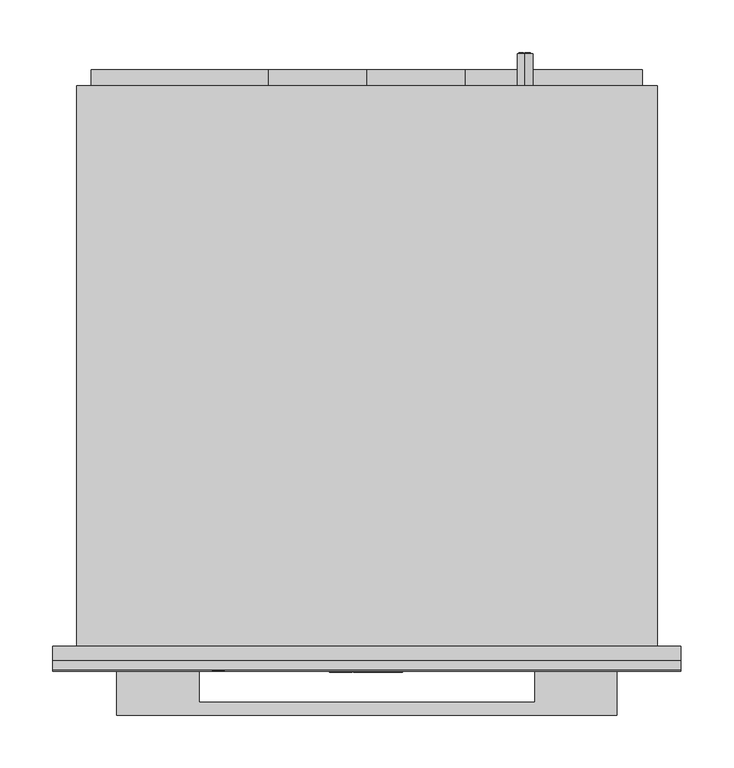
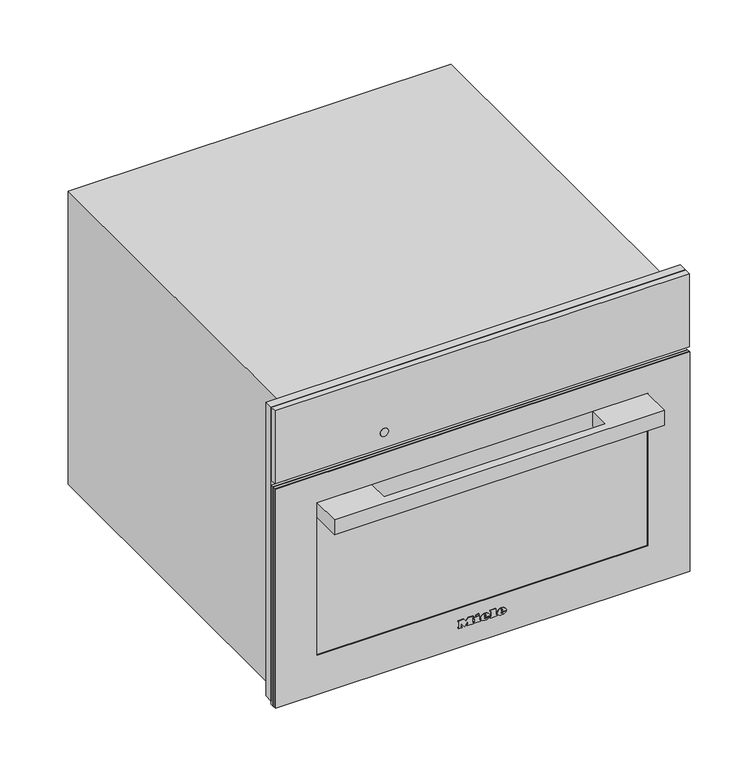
"""IFC4 building model written with IfcOpenShell, lengths in millimetres: proxy geometry, 11708570_BNE_DG2740_EDST-CLST : 23274040_BNE_11708570_DG2740_EDST-CLST."""

from ifc_helpers import new_model, si_unit, point, frame, frame_2d, origin, place, context, project, spatial, polyline, circle_curve, ellipse_curve, trimmed, segment, composite_curve, outline, extrude, faceted_brep, source, transform, mapped, element, save
from ifc_brep_helpers import plane_surface, cylinder_surface, revolved_surface, extruded_surface, advanced_brep


def specialty_equipment_362e2358(model_context):
    return source(origin(), model_context, "Body", "SolidModel", [
        extrude(outline(polyline([(455.0, 297.5), (455.0, -297.5), (9.0, -297.5), (9.0, -272.5), (344.0, -272.5), (344.0, 272.5), (9.0, 272.5), (9.0, 297.5), (455.0, 297.5)])), frame((0.0, -13.0, 0.0), z_axis=(0.0, 1.0, 0.0), x_axis=(0.0, 0.0, 1.0)), (0.0, 0.0, 1.0), 13.0),
        advanced_brep(
        [(150.0, 561.0, 410.5), (150.0, 561.0, 395.5), (144.4098301, 561.0, 398.0), (148.5, 561.0, 398.0), (148.5, 561.0, 408.0), (147.4955303, 561.0, 408.0), (147.4955303, 561.0, 399.0), (144.0315043, 561.0, 399.0), (144.0315043, 561.0, 398.4582978), (155.0, 561.0, 398.0), (155.0, 561.0, 408.0), (150.0, 561.0, 408.0), (150.0, 561.0, 407.0), (154.0, 561.0, 407.0), (154.0, 561.0, 403.5), (151.0, 561.0, 403.5), (151.0, 561.0, 402.5), (154.0, 561.0, 402.5), (154.0, 561.0, 399.0), (150.0, 561.0, 399.0), (150.0, 561.0, 398.0), (150.0, 531.0, 395.5), (150.0, 531.0, 410.5), (155.0, 562.0, 408.0), (155.0, 562.0, 398.0), (150.0, 562.0, 398.0), (150.0, 562.0, 399.0), (154.0, 562.0, 399.0), (154.0, 562.0, 402.5), (151.0, 562.0, 402.5), (151.0, 562.0, 403.5), (154.0, 562.0, 403.5), (154.0, 562.0, 407.0), (150.0, 562.0, 407.0), (150.0, 562.0, 408.0), (148.5, 562.0, 398.0), (144.0315043, 562.0, 398.0), (144.0315043, 562.0, 399.0), (147.4955303, 562.0, 399.0), (147.4955303, 562.0, 408.0), (148.5, 562.0, 408.0), (144.0315043, 561.0, 398.0)],
        [
            (0, 1, circle_curve(frame((150.0, 561.0, 403.0), z_axis=(0.0, 1.0, 0.0), x_axis=(0.0, 0.0, 1.0)), 7.5)),
            (1, 2, circle_curve(frame((150.0, 561.0, 403.0), z_axis=(0.0, 1.0, 0.0), x_axis=(0.0, 0.0, 1.0)), 7.5)),
            (2, 3),
            (3, 4),
            (4, 5),
            (5, 6),
            (6, 7),
            (7, 8),
            (8, 0, circle_curve(frame((150.0, 561.0, 403.0), z_axis=(0.0, 1.0, 0.0), x_axis=(0.0, 0.0, 1.0)), 7.5)),
            (9, 10),
            (10, 11),
            (11, 12),
            (12, 13),
            (13, 14),
            (14, 15),
            (15, 16),
            (16, 17),
            (17, 18),
            (18, 19),
            (19, 20),
            (20, 9),
            (21, 22, circle_curve(frame((150.0, 531.0, 403.0), z_axis=(0.0, -1.0, 0.0), x_axis=(0.0, 0.0, 1.0)), 7.5)),
            (22, 21, circle_curve(frame((150.0, 531.0, 403.0), z_axis=(0.0, -1.0, 0.0), x_axis=(0.0, 0.0, 1.0)), 7.5)),
            (0, 22),
            (21, 1),
            (8, 2, circle_curve(frame((150.0, 561.0, 403.0), z_axis=(0.0, -1.0, 0.0), x_axis=(0.0, 0.0, 1.0)), 7.5)),
            (23, 24),
            (24, 25),
            (25, 26),
            (26, 27),
            (27, 28),
            (28, 29),
            (29, 30),
            (30, 31),
            (31, 32),
            (32, 33),
            (33, 34),
            (34, 23),
            (35, 36),
            (36, 37),
            (37, 38),
            (38, 39),
            (39, 40),
            (40, 35),
            (8, 41),
            (41, 2),
            (23, 10),
            (9, 24),
            (20, 25),
            (19, 26),
            (18, 27),
            (17, 28),
            (16, 29),
            (15, 30),
            (14, 31),
            (13, 32),
            (12, 33),
            (11, 34),
            (35, 3),
            (41, 36),
            (7, 37),
            (6, 38),
            (5, 39),
            (4, 40),
        ],
        [
            plane_surface(frame((150.0, 561.0, 410.5), z_axis=(0.0, 1.0, 0.0), x_axis=(1.0, 0.0, 0.0))),
            plane_surface(frame((150.0, 531.0, 410.5), z_axis=(0.0, -1.0, 0.0), x_axis=(-1.0, 0.0, 0.0))),
            cylinder_surface(frame((150.0, 561.0, 403.0), z_axis=(0.0, -1.0, 0.0), x_axis=(0.0, 0.0, 1.0)), 7.5),
            plane_surface(frame((155.0, 562.0, 408.0), z_axis=(0.0, 1.0, 0.0), x_axis=(0.0, 0.0, -1.0))),
            plane_surface(frame((155.0, 561.0, 408.0), z_axis=(0.0, -1.0, 0.0), x_axis=(0.0, 0.0, 1.0))),
            plane_surface(frame((155.0, 562.0, 408.0), z_axis=(1.0, 0.0, 0.0), x_axis=(0.0, -1.0, 0.0))),
            plane_surface(frame((155.0, 562.0, 398.0), z_axis=(0.0, 0.0, -1.0), x_axis=(0.0, -1.0, 0.0))),
            plane_surface(frame((150.0, 562.0, 398.0), z_axis=(-1.0, 0.0, 0.0), x_axis=(0.0, -1.0, 0.0))),
            plane_surface(frame((150.0, 562.0, 399.0), z_axis=(0.0, 0.0, 1.0), x_axis=(0.0, -1.0, 0.0))),
            plane_surface(frame((154.0, 562.0, 399.0), z_axis=(-1.0, 0.0, 0.0), x_axis=(0.0, -1.0, 0.0))),
            plane_surface(frame((154.0, 562.0, 402.5), z_axis=(0.0, 0.0, -1.0), x_axis=(0.0, -1.0, 0.0))),
            plane_surface(frame((151.0, 562.0, 402.5), z_axis=(-1.0, 0.0, 0.0), x_axis=(0.0, -1.0, 0.0))),
            plane_surface(frame((151.0, 562.0, 403.5), z_axis=(0.0, 0.0, 1.0), x_axis=(0.0, -1.0, 0.0))),
            plane_surface(frame((154.0, 562.0, 403.5), z_axis=(-1.0, 0.0, 0.0), x_axis=(0.0, -1.0, 0.0))),
            plane_surface(frame((154.0, 562.0, 407.0), z_axis=(0.0, 0.0, -1.0), x_axis=(0.0, -1.0, 0.0))),
            plane_surface(frame((150.0, 562.0, 407.0), z_axis=(-1.0, 0.0, 0.0), x_axis=(0.0, -1.0, 0.0))),
            plane_surface(frame((150.0, 562.0, 408.0), z_axis=(0.0, 0.0, 1.0), x_axis=(0.0, -1.0, 0.0))),
            plane_surface(frame((148.5, 562.0, 398.0), z_axis=(0.0, 0.0, -1.0), x_axis=(0.0, -1.0, 0.0))),
            plane_surface(frame((144.0315043, 562.0, 398.0), z_axis=(-1.0, 0.0, 0.0), x_axis=(0.0, -1.0, 0.0))),
            plane_surface(frame((144.0315043, 562.0, 399.0), z_axis=(0.0, 0.0, 1.0), x_axis=(0.0, -1.0, 0.0))),
            plane_surface(frame((147.4955303, 562.0, 399.0), z_axis=(-1.0, 0.0, 0.0), x_axis=(0.0, -1.0, 0.0))),
            plane_surface(frame((147.4955303, 562.0, 408.0), z_axis=(0.0, 0.0, 1.0), x_axis=(0.0, -1.0, 0.0))),
            plane_surface(frame((148.5, 562.0, 408.0), z_axis=(1.0, 0.0, 0.0), x_axis=(0.0, -1.0, 0.0))),
        ],
        [
            (0, [[1, 2, 3, 4, 5, 6, 7, 8, 9], [10, 11, 12, 13, 14, 15, 16, 17, 18, 19, 20, 21]]),
            (1, [[22, 23]]),
            (2, [[-1, 24, -22, 25]]),
            (2, [[-23, -24, -9, 26, -2, -25]]),
            (3, [[27, 28, 29, 30, 31, 32, 33, 34, 35, 36, 37, 38]]),
            (3, [[39, 40, 41, 42, 43, 44]]),
            (4, [[45, 46, -26]]),
            (5, [[-27, 47, -10, 48]]),
            (6, [[-28, -48, -21, 49]]),
            (7, [[-29, -49, -20, 50]]),
            (8, [[-30, -50, -19, 51]]),
            (9, [[-31, -51, -18, 52]]),
            (10, [[-32, -52, -17, 53]]),
            (11, [[-33, -53, -16, 54]]),
            (12, [[-34, -54, -15, 55]]),
            (13, [[-35, -55, -14, 56]]),
            (14, [[-36, -56, -13, 57]]),
            (15, [[-37, -57, -12, 58]]),
            (16, [[-38, -58, -11, -47]]),
            (17, [[-39, 59, -3, -46, 60]]),
            (18, [[-40, -60, -45, -8, 61]]),
            (19, [[-41, -61, -7, 62]]),
            (20, [[-42, -62, -6, 63]]),
            (21, [[-43, -63, -5, 64]]),
            (22, [[-44, -64, -4, -59]]),
        ],
    ),
        extrude(outline(polyline([(299.0, -93.0), (258.0, -93.0), (258.0, -261.0), (111.0, -261.0), (111.0, -93.0), (70.0, -93.0), (70.0, 0.0), (70.0, 93.0), (111.0, 93.0), (111.0, 261.0), (258.0, 261.0), (258.0, 93.0), (299.0, 93.0), (299.0, 0.0), (299.0, -93.0)])), frame((0.0, 531.0, 0.0), z_axis=(0.0, 1.0, 0.0), x_axis=(0.0, 0.0, 1.0)), (0.0, 0.0, 1.0), 15.0),
        faceted_brep([(275.0, 531.0, 445.0), (275.0, 531.0, 0.0), (-275.0, 531.0, 0.0), (-275.0, 531.0, 445.0), (275.0, 0.0, 445.0), (-275.0, 0.0, 445.0), (-275.0, 0.0, 0.0), (275.0, 0.0, 0.0), (-272.5, 0.0, 344.0), (272.5, 0.0, 344.0), (272.5, 0.0, 8.0), (-272.5, 0.0, 8.0), (272.5, 34.0, 344.0), (-272.5, 34.0, 344.0), (-272.5, 34.0, 8.0), (272.5, 34.0, 8.0), (161.0, 34.0, 286.0), (161.0, 34.0, 58.0), (-220.0, 34.0, 58.0), (-220.0, 34.0, 286.0), (161.0, 444.0, 286.0), (-220.0, 444.0, 286.0), (-220.0, 444.0, 58.0), (161.0, 444.0, 58.0)], [[[0, 1, 2, 3]], [[4, 5, 6, 7], [8, 9, 10, 11]], [[0, 3, 5, 4]], [[3, 2, 6, 5]], [[2, 1, 7, 6]], [[1, 0, 4, 7]], [[12, 13, 14, 15], [16, 17, 18, 19]], [[13, 12, 9, 8]], [[14, 13, 8, 11]], [[15, 14, 11, 10]], [[12, 15, 10, 9]], [[20, 21, 22, 23]], [[20, 23, 17, 16]], [[23, 22, 18, 17]], [[22, 21, 19, 18]], [[21, 20, 16, 19]]]),
        advanced_brep(
        [(26.2998, -24.3, 36.7018), (26.2998, -24.3, 37.8532), (33.9264, -24.3, 37.8532), (20.6568, -24.3, 37.8532), (23.7918, -24.3, 34.0), (33.7326, -24.3, 36.7018), (30.2898, -24.3, 36.7018), (27.5766, -24.3, 35.425), (26.2998, -24.3, 39.3124), (26.2998, -24.3, 40.555), (28.2492, -24.3, 40.555), (28.2492, -24.3, 39.3124), (26.2998, -23.3, 36.7018), (27.5766, -23.3, 35.425), (30.2898, -23.3, 36.7018), (33.7326, -23.3, 36.7018), (23.7918, -23.3, 34.0), (20.6568, -23.3, 37.8532), (33.9264, -23.3, 37.8532), (26.2998, -23.3, 37.8532), (26.2998, -23.3, 39.3124), (28.2492, -23.3, 39.3124), (28.2492, -23.3, 40.555), (26.2998, -23.3, 40.555)],
        [
            (0, 1),
            (1, 2),
            (2, 3, ellipse_curve(frame((27.2916, -24.3, 37.8532), z_axis=(0.0, -1.0, 0.0), x_axis=(-1.0, 0.0, 0.0)), 6.6348, 5.4834)),
            (3, 4, circle_curve(frame((25.0686622, -24.3, 38.2408), z_axis=(0.0, -1.0, 0.0), x_axis=(0.0, 0.0, -1.0)), 4.4288556)),
            (4, 5, circle_curve(frame((27.1587808, -24.3, 41.2504), z_axis=(0.0, -1.0, 0.0), x_axis=(0.0, 0.0, -1.0)), 7.9940516)),
            (5, 6),
            (6, 7, circle_curve(frame((28.1338588, -24.3, 37.762), z_axis=(0.0, 1.0, 0.0), x_axis=(0.0, 0.0, -1.0)), 2.4025208)),
            (7, 0, circle_curve(frame((27.5766, -24.3, 36.7018), z_axis=(0.0, 1.0, 0.0), x_axis=(0.0, 0.0, -1.0)), 1.2768)),
            (8, 9),
            (9, 10, circle_curve(frame((27.2745, -24.3, 40.555), z_axis=(0.0, 1.0, 0.0), x_axis=(0.0, 0.0, -1.0)), 0.9747)),
            (10, 11),
            (11, 8),
            (12, 13, circle_curve(frame((27.5766, -23.3, 36.7018), z_axis=(0.0, -1.0, 0.0), x_axis=(0.0, 0.0, -1.0)), 1.2768)),
            (13, 14, circle_curve(frame((28.1338588, -23.3, 37.762), z_axis=(0.0, -1.0, 0.0), x_axis=(0.0, 0.0, -1.0)), 2.4025208)),
            (14, 15),
            (15, 16, circle_curve(frame((27.1587808, -23.3, 41.2504), z_axis=(0.0, 1.0, 0.0), x_axis=(0.0, 0.0, -1.0)), 7.9940516)),
            (16, 17, circle_curve(frame((25.0686622, -23.3, 38.2408), z_axis=(0.0, 1.0, 0.0), x_axis=(0.0, 0.0, -1.0)), 4.4288556)),
            (17, 18, ellipse_curve(frame((27.2916, -23.3, 37.8532), z_axis=(0.0, 1.0, 0.0), x_axis=(-1.0, 0.0, 0.0)), 6.6348, 5.4834)),
            (18, 19),
            (19, 12),
            (20, 21),
            (21, 22),
            (22, 23, circle_curve(frame((27.2745, -23.3, 40.555), z_axis=(0.0, -1.0, 0.0), x_axis=(0.0, 0.0, -1.0)), 0.9747)),
            (23, 20),
            (0, 12),
            (19, 1),
            (18, 2),
            (5, 15),
            (14, 6),
            (17, 3),
            (13, 7),
            (16, 4),
            (8, 20),
            (23, 9),
            (22, 10),
            (21, 11),
        ],
        [
            plane_surface(frame((26.2998, -24.3, 37.8532), z_axis=(0.0, -1.0, 0.0), x_axis=(0.0, 0.0, 1.0))),
            plane_surface(frame((26.2998, -23.3, 37.8532), z_axis=(0.0, 1.0, 0.0), x_axis=(0.0, 0.0, -1.0))),
            plane_surface(frame((26.2998, -24.3, 36.7018), z_axis=(1.0, 0.0, 0.0), x_axis=(0.0, 1.0, 0.0))),
            plane_surface(frame((26.2998, -24.3, 37.8532), z_axis=(0.0, 0.0, -1.0), x_axis=(0.0, 1.0, 0.0))),
            plane_surface(frame((33.7326, -24.3, 36.7018), z_axis=(0.0, 0.0, 1.0), x_axis=(0.0, 1.0, 0.0))),
            extruded_surface(trimmed(ellipse_curve(frame((27.2916, -22.3, 37.8532), z_axis=(0.0, -1.0, 0.0), x_axis=(-1.0, 0.0, 0.0)), 6.6348, 5.4834), [point((33.9264, -22.3, 37.8532))], [point((20.6568, -22.3, 37.8532))], True, "CARTESIAN"), (0.0, -1.0, 0.0), 1.0),
            revolved_surface(polyline([(28.1338588, -23.3, 35.3594792), (28.1338588, -24.3, 35.3594792)]), (28.1338588, -23.3, 37.762), (0.0, 1.0, 0.0)),
            revolved_surface(polyline([(27.5766, -23.3, 35.425), (27.5766, -24.3, 35.425)]), (27.5766, -23.3, 36.7018), (0.0, 1.0, 0.0)),
            cylinder_surface(frame((25.0686622, -23.3, 38.2408), z_axis=(0.0, -1.0, 0.0), x_axis=(0.0, 0.0, -1.0)), 4.4288556),
            cylinder_surface(frame((27.1587808, -23.3, 41.2504), z_axis=(0.0, -1.0, 0.0), x_axis=(0.0, 0.0, -1.0)), 7.9940516),
            plane_surface(frame((26.2998, -24.3, 39.3124), z_axis=(1.0, 0.0, 0.0), x_axis=(0.0, 1.0, 0.0))),
            revolved_surface(polyline([(27.2745, -23.3, 39.5803), (27.2745, -24.3, 39.5803)]), (27.2745, -23.3, 40.555), (0.0, 1.0, 0.0)),
            plane_surface(frame((28.2492, -24.3, 40.555), z_axis=(-1.0, 0.0, 0.0), x_axis=(0.0, 1.0, 0.0))),
            plane_surface(frame((28.2492, -24.3, 39.3124), z_axis=(0.0, 0.0, 1.0), x_axis=(0.0, 1.0, 0.0))),
        ],
        [
            (0, [[1, 2, 3, 4, 5, 6, 7, 8], [9, 10, 11, 12]]),
            (1, [[13, 14, 15, 16, 17, 18, 19, 20], [21, 22, 23, 24]]),
            (2, [[-1, 25, -20, 26]]),
            (3, [[-2, -26, -19, 27]]),
            (4, [[-6, 28, -15, 29]]),
            (5, [[-3, -27, -18, 30]]),
            (6, [[-7, -29, -14, 31]]),
            (7, [[-8, -31, -13, -25]]),
            (8, [[-4, -30, -17, 32]]),
            (9, [[-5, -32, -16, -28]]),
            (10, [[-9, 33, -24, 34]]),
            (11, [[-10, -34, -23, 35]]),
            (12, [[-11, -35, -22, 36]]),
            (13, [[-12, -36, -21, -33]]),
        ],
    ),
        advanced_brep(
        [(2.508, -24.3, 36.7018), (2.508, -24.3, 37.8532), (10.1346, -24.3, 37.8532), (-3.135, -24.3, 37.8532), (0.0, -24.3, 34.0), (9.9408, -24.3, 36.7018), (6.498, -24.3, 36.7018), (3.7848, -24.3, 35.425), (2.508, -24.3, 39.3124), (2.508, -24.3, 40.555), (4.4574, -24.3, 40.555), (4.4574, -24.3, 39.3124), (2.508, -23.3, 36.7018), (3.7848, -23.3, 35.425), (6.498, -23.3, 36.7018), (9.9408, -23.3, 36.7018), (0.0, -23.3, 34.0), (-3.135, -23.3, 37.8532), (10.1346, -23.3, 37.8532), (2.508, -23.3, 37.8532), (2.508, -23.3, 39.3124), (4.4574, -23.3, 39.3124), (4.4574, -23.3, 40.555), (2.508, -23.3, 40.555)],
        [
            (0, 1),
            (1, 2),
            (2, 3, ellipse_curve(frame((3.4998, -24.3, 37.8532), z_axis=(0.0, -1.0, 0.0), x_axis=(-1.0, 0.0, 0.0)), 6.6348, 5.4834)),
            (3, 4, circle_curve(frame((1.2768622, -24.3, 38.2408), z_axis=(0.0, -1.0, 0.0), x_axis=(0.0, 0.0, -1.0)), 4.4288556)),
            (4, 5, circle_curve(frame((3.3669808, -24.3, 41.2504), z_axis=(0.0, -1.0, 0.0), x_axis=(0.0, 0.0, -1.0)), 7.9940516)),
            (5, 6),
            (6, 7, circle_curve(frame((4.3420588, -24.3, 37.762), z_axis=(0.0, 1.0, 0.0), x_axis=(0.0, 0.0, -1.0)), 2.4025208)),
            (7, 0, circle_curve(frame((3.7848, -24.3, 36.7018), z_axis=(0.0, 1.0, 0.0), x_axis=(0.0, 0.0, -1.0)), 1.2768)),
            (8, 9),
            (9, 10, circle_curve(frame((3.4827, -24.3, 40.555), z_axis=(0.0, 1.0, 0.0), x_axis=(0.0, 0.0, -1.0)), 0.9747)),
            (10, 11),
            (11, 8),
            (12, 13, circle_curve(frame((3.7848, -23.3, 36.7018), z_axis=(0.0, -1.0, 0.0), x_axis=(0.0, 0.0, -1.0)), 1.2768)),
            (13, 14, circle_curve(frame((4.3420588, -23.3, 37.762), z_axis=(0.0, -1.0, 0.0), x_axis=(0.0, 0.0, -1.0)), 2.4025208)),
            (14, 15),
            (15, 16, circle_curve(frame((3.3669808, -23.3, 41.2504), z_axis=(0.0, 1.0, 0.0), x_axis=(0.0, 0.0, -1.0)), 7.9940516)),
            (16, 17, circle_curve(frame((1.2768622, -23.3, 38.2408), z_axis=(0.0, 1.0, 0.0), x_axis=(0.0, 0.0, -1.0)), 4.4288556)),
            (17, 18, ellipse_curve(frame((3.4998, -23.3, 37.8532), z_axis=(0.0, 1.0, 0.0), x_axis=(-1.0, 0.0, 0.0)), 6.6348, 5.4834)),
            (18, 19),
            (19, 12),
            (20, 21),
            (21, 22),
            (22, 23, circle_curve(frame((3.4827, -23.3, 40.555), z_axis=(0.0, -1.0, 0.0), x_axis=(0.0, 0.0, -1.0)), 0.9747)),
            (23, 20),
            (0, 12),
            (19, 1),
            (18, 2),
            (5, 15),
            (14, 6),
            (17, 3),
            (13, 7),
            (16, 4),
            (8, 20),
            (23, 9),
            (22, 10),
            (21, 11),
        ],
        [
            plane_surface(frame((2.508, -24.3, 37.8532), z_axis=(0.0, -1.0, 0.0), x_axis=(0.0, 0.0, 1.0))),
            plane_surface(frame((2.508, -23.3, 37.8532), z_axis=(0.0, 1.0, 0.0), x_axis=(0.0, 0.0, -1.0))),
            plane_surface(frame((2.508, -24.3, 36.7018), z_axis=(1.0, 0.0, 0.0), x_axis=(0.0, 1.0, 0.0))),
            plane_surface(frame((2.508, -24.3, 37.8532), z_axis=(0.0, 0.0, -1.0), x_axis=(0.0, 1.0, 0.0))),
            plane_surface(frame((9.9408, -24.3, 36.7018), z_axis=(0.0, 0.0, 1.0), x_axis=(0.0, 1.0, 0.0))),
            extruded_surface(trimmed(ellipse_curve(frame((3.4998, -22.3, 37.8532), z_axis=(0.0, -1.0, 0.0), x_axis=(-1.0, 0.0, 0.0)), 6.6348, 5.4834), [point((10.1346, -22.3, 37.8532))], [point((-3.135, -22.3, 37.8532))], True, "CARTESIAN"), (0.0, -1.0, 0.0), 1.0),
            revolved_surface(polyline([(4.3420588, -23.3, 35.3594792), (4.3420588, -24.3, 35.3594792)]), (4.3420588, -23.3, 37.762), (0.0, 1.0, 0.0)),
            revolved_surface(polyline([(3.7848, -23.3, 35.425), (3.7848, -24.3, 35.425)]), (3.7848, -23.3, 36.7018), (0.0, 1.0, 0.0)),
            cylinder_surface(frame((1.2768622, -23.3, 38.2408), z_axis=(0.0, -1.0, 0.0), x_axis=(0.0, 0.0, -1.0)), 4.4288556),
            cylinder_surface(frame((3.3669808, -23.3, 41.2504), z_axis=(0.0, -1.0, 0.0), x_axis=(0.0, 0.0, -1.0)), 7.9940516),
            plane_surface(frame((2.508, -24.3, 39.3124), z_axis=(1.0, 0.0, 0.0), x_axis=(0.0, 1.0, 0.0))),
            revolved_surface(polyline([(3.4827, -23.3, 39.5803), (3.4827, -24.3, 39.5803)]), (3.4827, -23.3, 40.555), (0.0, 1.0, 0.0)),
            plane_surface(frame((4.4574, -24.3, 40.555), z_axis=(-1.0, 0.0, 0.0), x_axis=(0.0, 1.0, 0.0))),
            plane_surface(frame((4.4574, -24.3, 39.3124), z_axis=(0.0, 0.0, 1.0), x_axis=(0.0, 1.0, 0.0))),
        ],
        [
            (0, [[1, 2, 3, 4, 5, 6, 7, 8], [9, 10, 11, 12]]),
            (1, [[13, 14, 15, 16, 17, 18, 19, 20], [21, 22, 23, 24]]),
            (2, [[-1, 25, -20, 26]]),
            (3, [[-2, -26, -19, 27]]),
            (4, [[-6, 28, -15, 29]]),
            (5, [[-3, -27, -18, 30]]),
            (6, [[-7, -29, -14, 31]]),
            (7, [[-8, -31, -13, -25]]),
            (8, [[-4, -30, -17, 32]]),
            (9, [[-5, -32, -16, -28]]),
            (10, [[-9, 33, -24, 34]]),
            (11, [[-10, -34, -23, 35]]),
            (12, [[-11, -35, -22, 36]]),
            (13, [[-12, -36, -21, -33]]),
        ],
    ),
        extrude(outline(polyline([(44.7274, -9.9522), (42.8806, -9.0858), (44.6818, -5.2212), (46.5286, -6.0762), (44.7274, -9.9522)])), frame((0.0, -24.3, 0.0), z_axis=(0.0, 1.0, 0.0), x_axis=(0.0, 0.0, 1.0)), (0.0, 0.0, 1.0), 1.0),
        extrude(outline(polyline([(42.6298, -12.768), (40.5892, -12.768), (40.5892, -11.4114), (35.9152, -11.4114), (35.9152, -12.768), (34.0, -12.768), (34.0, -3.7734), (35.9152, -3.7734), (35.9152, -5.0958), (42.6298, -5.0958), (42.6298, -12.768)])), frame((0.0, -24.3, 0.0), z_axis=(0.0, 1.0, 0.0), x_axis=(0.0, 0.0, 1.0)), (0.0, 0.0, 1.0), 1.0),
        extrude(outline(polyline([(43.5418, 10.773), (43.5418, 12.141), (35.9152, 12.141), (35.9152, 10.773), (34.0, 10.773), (34.0, 20.0184), (35.9152, 20.0184), (35.9152, 18.6162), (45.4, 18.6162), (45.4, 10.773), (43.5418, 10.773)])), frame((0.0, -24.3, 0.0), z_axis=(0.0, 1.0, 0.0), x_axis=(0.0, 0.0, 1.0)), (0.0, 0.0, 1.0), 1.0),
        extrude(outline(polyline([(43.5418, -35.4882), (43.5418, -34.1088), (35.9152, -34.1088), (35.9152, -35.4882), (34.0, -35.4882), (34.0, -30.4722), (35.9152, -30.4722), (35.9152, -31.8402), (40.7429247, -31.8402), (34.0, -26.7444), (40.9402223, -21.6258), (35.9152, -21.6258), (35.9152, -23.028), (34.0, -23.028), (34.0, -13.9308), (35.9152, -13.9308), (35.9152, -15.3786), (43.5418, -15.3786), (43.5418, -13.9308), (45.4, -13.9308), (45.4, -20.8734), (41.125, -24.2022), (45.4, -27.5424), (45.4, -35.4882), (43.5418, -35.4882)])), frame((0.0, -24.3, 0.0), z_axis=(0.0, 1.0, 0.0), x_axis=(0.0, 0.0, 1.0)), (0.0, 0.0, 1.0), 1.0),
        extrude(outline(polyline([(297.5, -22.0), (-297.5, -22.0), (-297.5, -13.0), (297.5, -13.0), (297.5, -22.0)])), frame((0.0, 0.0, 344.0), z_axis=(0.0, 0.0, 1.0), x_axis=(1.0, 0.0, 0.0)), (0.0, 0.0, 1.0), 111.0),
        extrude(outline(composite_curve([segment(trimmed(circle_curve(frame_2d((367.7, -140.5745637)), 6.0), [point((367.7, -146.5745637))], [point((367.7, -134.5745637))], False, "CARTESIAN"), True, "CONTINUOUS"), segment(trimmed(circle_curve(frame_2d((367.7, -140.5745637)), 6.0), [point((367.7, -134.5745637))], [point((367.7, -146.5745637))], False, "CARTESIAN"), True, "CONTINUOUS")], self_intersect=False)), frame((0.0, -22.5, 0.0), z_axis=(0.0, 1.0, 0.0), x_axis=(0.0, 0.0, 1.0)), (0.0, 0.0, 1.0), 1.0),
        extrude(outline(polyline([(297.5, -18.0), (-297.5, -18.0), (-297.5, -13.0), (297.5, -13.0), (297.5, -18.0)])), frame((0.0, 0.0, 4.0), z_axis=(0.0, 0.0, 1.0), x_axis=(1.0, 0.0, 0.0)), (0.0, 0.0, 1.0), 333.0),
        extrude(outline(polyline([(337.0, 297.5), (337.0, -297.5), (4.0, -297.5), (4.0, 297.5), (337.0, 297.5)]), holes=[polyline([(295.5, -237.5), (295.5, 237.5), (64.0, 237.5), (64.0, -237.5), (295.5, -237.5)])]), frame((0.0, -23.3, 0.0), z_axis=(0.0, 1.0, 0.0), x_axis=(0.0, 0.0, 1.0)), (0.0, 0.0, 1.0), 1.3),
        extrude(outline(polyline([(-159.0, -22.0), (-159.0, -53.0), (159.0, -53.0), (159.0, -22.0), (237.0, -22.0), (237.0, -65.0), (-237.0, -65.0), (-237.0, -22.0), (-159.0, -22.0)])), frame((0.0, 0.0, 272.0), z_axis=(0.0, 0.0, 1.0), x_axis=(1.0, 0.0, 0.0)), (0.0, 0.0, 1.0), 22.5),
        extrude(outline(polyline([(297.5, -22.0), (-297.5, -22.0), (-297.5, -18.0), (297.5, -18.0), (297.5, -22.0)])), frame((0.0, 0.0, 4.0), z_axis=(0.0, 0.0, 1.0), x_axis=(1.0, 0.0, 0.0)), (0.0, 0.0, 1.0), 333.0),
    ])


if __name__ == "__main__":
    model = new_model("IFC4")
    model_context = context("Model", 3, world=origin())
    ifc_project = project(units=[si_unit("LENGTHUNIT", "METRE", prefix="MILLI")], contexts=[model_context])
    site = spatial("IfcSite", under=ifc_project)
    building = spatial("IfcBuilding", under=site)
    placement = place(None, origin())
    specialty_equipment_shape = specialty_equipment_362e2358(model_context)
    element("IfcBuildingElementProxy", 1, Name="11708570_BNE_DG2740_EDST-CLST : 23274040_BNE_11708570_DG2740_EDST-CLST", ObjectType="11708570_BNE_DG2740_EDST-CLST : 23274040_BNE_11708570_DG2740_EDST-CLST", at=placement, inside=building, context=model_context, shape_type="MappedRepresentation", body=[
        mapped(specialty_equipment_shape, transform((0.0, 0.0, 0.0), x_axis=(1.0, 0.0, 0.0), y_axis=(0.0, 1.0, 0.0), z_axis=(0.0, 0.0, 1.0))),
    ])
    save(model, "model.ifc")
